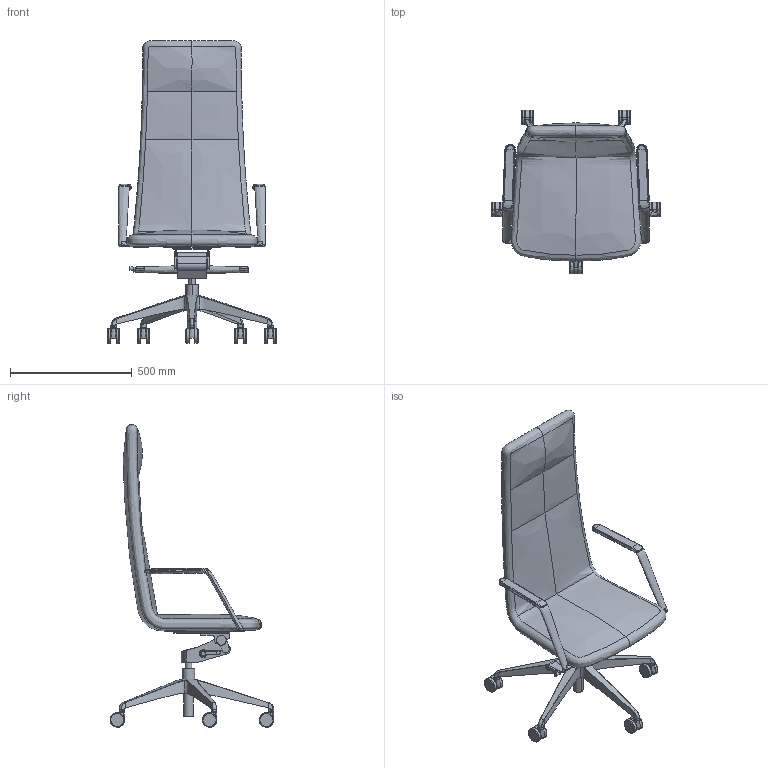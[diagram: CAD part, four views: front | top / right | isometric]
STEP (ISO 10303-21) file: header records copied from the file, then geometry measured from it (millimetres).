
FILE_DESCRIPTION(/* description */ (''),/* implementation_level */ '2;1');
FILE_NAME(/* name */ 'HARMON~1',/* time_stamp */ '2016-09-30T16:36:30+02:00',/* author */ (''),/* organization */ (''),/* preprocessor_version */ 'ST-DEVELOPER v15',/* originating_system */ '',/* authorisation */ '');
FILE_SCHEMA (('CONFIG_CONTROL_DESIGN'));
Length unit declared in the file: millimetre
Products named in the file (1): Document
Bounding box: 694.82 x 673.73 x 1245.01 mm (x, y, z)
Volume: 35106183.5 mm3; surface area: 1956405.8 mm2
Topology: 9 solids, 44 shells, 433 faces, 1042 edges, 624 vertices
Faces by surface type: bspline 335, plane 98
Entity records: 25913 total; most frequent: CARTESIAN_POINT 20136, ORIENTED_EDGE 1884, EDGE_CURVE 1010, VERTEX_POINT 618, EDGE_LOOP 435, ADVANCED_FACE 433, FACE_OUTER_BOUND 433, B_SPLINE_CURVE_WITH_KNOTS 394
